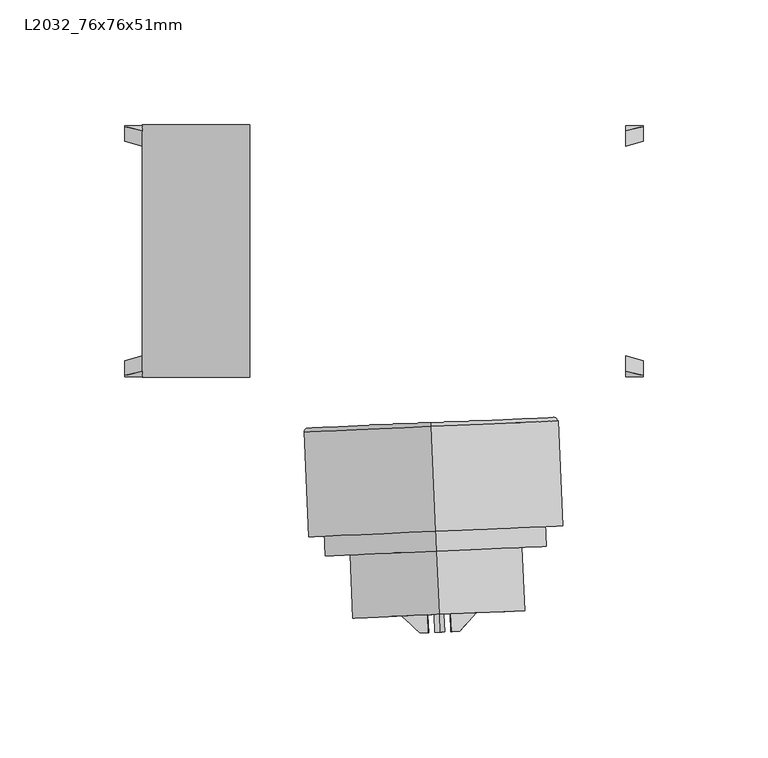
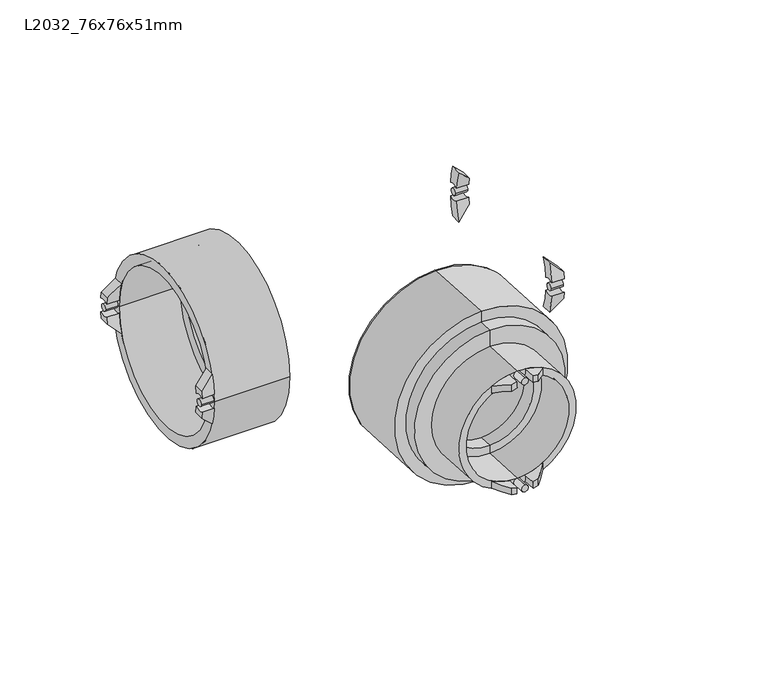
"""IFC4 building model written with IfcOpenShell, lengths in millimetres: pipe fitting geometry, Durapipe_PipeFitting_VulcatheneEnfusion_ReducingSweepTee_L20 : L2032_76x76x51mm."""

from ifc_helpers import new_model, si_unit, point, frame, frame_2d, origin, place, context, project, spatial, polyline, circle_curve, ellipse_curve, trimmed, segment, composite_curve, outline, extrude, source, transform, mapped, element, save
from ifc_brep_helpers import plane_surface, cylinder_surface, revolved_surface, advanced_brep


def l2032_76x76x51mm_12356ed6(model_context):
    return source(origin(), model_context, "Body", "SolidModel", [
        advanced_brep(
        [(2.1979179, -152.9469122, 30.2709231), (1.9269911, -152.9587411, 34.0709231), (-1.2631601, -153.0980261, 33.4711279), (-1.2631601, -153.0980261, 29.5519272), (-8.6261382, -146.3127366, 30.9573901), (1.6172935, -145.8654987, 34.0709231), (1.8882202, -145.8536698, 30.2709231), (-8.6261382, -146.3127366, 26.6713329)],
        [
            (0, 1, circle_curve(frame((6.6692827, -152.7516881, 32.5), z_axis=(-0.043619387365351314, 0.9990482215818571, 0.0), x_axis=(0.0, 0.0, -1.0)), 5.0)),
            (1, 2, circle_curve(frame((6.6692827, -152.7516881, 0.0), z_axis=(0.043619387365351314, -0.9990482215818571, 0.0), x_axis=(0.0, 0.0, -1.0)), 34.4)),
            (2, 3),
            (3, 0, circle_curve(frame((6.6692827, -152.7516881, 0.0), z_axis=(-0.043619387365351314, 0.9990482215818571, 0.0), x_axis=(0.0, 0.0, -1.0)), 30.6)),
            (4, 5, circle_curve(frame((6.3595851, -145.6584458, 0.0), z_axis=(-0.043619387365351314, 0.9990482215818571, 0.0), x_axis=(0.0, 0.0, -1.0)), 34.4)),
            (5, 6, circle_curve(frame((6.3595851, -145.6584458, 32.5), z_axis=(0.043619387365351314, -0.9990482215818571, 0.0), x_axis=(0.0, 0.0, -1.0)), 5.0)),
            (6, 7, circle_curve(frame((6.3595851, -145.6584458, 0.0), z_axis=(0.043619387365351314, -0.9990482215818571, 0.0), x_axis=(0.0, 0.0, -1.0)), 30.6)),
            (7, 4),
            (6, 0),
            (3, 7, ellipse_curve(frame((7.0175829, -160.729074, 0.0), z_axis=(-0.6776702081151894, -0.735365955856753, 0.0), x_axis=(-0.735365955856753, 0.6776702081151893, 0.0)), 43.3977, 30.6)),
            (4, 2, ellipse_curve(frame((7.0175829, -160.729074, 0.0), z_axis=(0.6776702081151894, 0.735365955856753, 0.0), x_axis=(0.735365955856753, -0.6776702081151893, 0.0)), 48.7869569, 34.4)),
            (1, 5),
        ],
        [
            plane_surface(frame((-8.3164406, -153.405979, 30.9573901), z_axis=(0.043619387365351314, -0.9990482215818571, 0.0), x_axis=(0.0, 0.0, -1.0))),
            plane_surface(frame((-8.6261382, -146.3127366, 30.9573901), z_axis=(-0.043619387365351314, 0.9990482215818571, 0.0), x_axis=(0.0, 0.0, 1.0))),
            revolved_surface(polyline([(5.6752673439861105, -129.98499235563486, -30.6), (8.35989853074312, -191.4731556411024, -30.6)]), (6.3595851, -145.6584458, 0.0), (-0.043619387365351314, 0.9990482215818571, 0.0)),
            cylinder_surface(frame((6.3595851, -145.6584458, 0.0), z_axis=(0.043619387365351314, -0.9990482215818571, 0.0), x_axis=(0.0, 0.0, -1.0)), 34.4),
            revolved_surface(polyline([(6.669282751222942, -152.75168819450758, 27.5), (6.359585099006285, -145.6584457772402, 27.5)]), (6.3595851, -145.6584458, 32.5), (0.043619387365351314, -0.9990482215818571, 0.0)),
            plane_surface(frame((-8.6261382, -146.3127366, -34.4), z_axis=(-0.6776702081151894, -0.735365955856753, 0.0), x_axis=(0.0, 0.0, 1.0))),
        ],
        [
            (0, [[1, 2, 3, 4]]),
            (1, [[5, 6, 7, 8]]),
            (2, [[-7, 9, -4, 10]]),
            (3, [[-5, 11, -2, 12]]),
            (4, [[-1, -9, -6, -12]]),
            (5, [[-3, -11, -8, -10]]),
        ],
    ),
        advanced_brep(
        [(11.4115744, -152.5446352, 34.0709231), (11.1406476, -152.5564641, 30.2709231), (14.6017256, -152.4053502, 29.5519272), (14.6017256, -152.4053502, 33.4711279), (11.1018767, -145.4513929, 34.0709231), (21.3453084, -145.004155, 30.9573901), (21.3453084, -145.004155, 26.6713329), (10.8309499, -145.4632218, 30.2709231)],
        [
            (0, 1, circle_curve(frame((6.6692827, -152.7516881, 32.5), z_axis=(-0.043619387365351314, 0.9990482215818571, 0.0), x_axis=(0.0, 0.0, -1.0)), 5.0)),
            (1, 2, circle_curve(frame((6.6692827, -152.7516881, 0.0), z_axis=(-0.043619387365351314, 0.9990482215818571, 0.0), x_axis=(0.0, 0.0, -1.0)), 30.6)),
            (2, 3),
            (3, 0, circle_curve(frame((6.6692827, -152.7516881, 0.0), z_axis=(0.043619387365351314, -0.9990482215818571, 0.0), x_axis=(0.0, 0.0, -1.0)), 34.4)),
            (4, 5, circle_curve(frame((6.3595851, -145.6584458, 0.0), z_axis=(-0.043619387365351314, 0.9990482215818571, 0.0), x_axis=(0.0, 0.0, -1.0)), 34.4)),
            (5, 6),
            (6, 7, circle_curve(frame((6.3595851, -145.6584458, 0.0), z_axis=(0.043619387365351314, -0.9990482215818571, 0.0), x_axis=(0.0, 0.0, -1.0)), 30.6)),
            (7, 4, circle_curve(frame((6.3595851, -145.6584458, 32.5), z_axis=(0.043619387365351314, -0.9990482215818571, 0.0), x_axis=(0.0, 0.0, -1.0)), 5.0)),
            (6, 2, ellipse_curve(frame((7.0175829, -160.729074, 0.0), z_axis=(0.7391828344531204, -0.6735048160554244, 0.0), x_axis=(0.6735048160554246, 0.73918283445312, 0.0)), 43.3977, 30.6)),
            (1, 7),
            (4, 0),
            (3, 5, ellipse_curve(frame((7.0175829, -160.729074, 0.0), z_axis=(-0.7391828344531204, 0.6735048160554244, 0.0), x_axis=(-0.6735048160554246, -0.73918283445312, 0.0)), 48.7869569, 34.4)),
        ],
        [
            plane_surface(frame((-8.3164406, -153.405979, 30.9573901), z_axis=(0.043619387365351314, -0.9990482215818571, 0.0), x_axis=(0.0, 0.0, -1.0))),
            plane_surface(frame((-8.6261382, -146.3127366, 30.9573901), z_axis=(-0.043619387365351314, 0.9990482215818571, 0.0), x_axis=(0.0, 0.0, 1.0))),
            revolved_surface(polyline([(5.675267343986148, -129.9849923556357, -30.6), (8.359898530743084, -191.47315564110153, -30.6)]), (6.3595851, -145.6584458, 0.0), (-0.043619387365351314, 0.9990482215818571, 0.0)),
            cylinder_surface(frame((6.3595851, -145.6584458, 0.0), z_axis=(0.043619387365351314, -0.9990482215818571, 0.0), x_axis=(0.0, 0.0, -1.0)), 34.4),
            revolved_surface(polyline([(6.669282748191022, -152.75168812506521, 27.5), (6.3595851, -145.6584458, 27.5)]), (6.3595851, -145.6584458, 32.5), (0.043619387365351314, -0.9990482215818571, 0.0)),
            plane_surface(frame((14.6017256, -152.4053502, -34.4), z_axis=(0.7391828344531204, -0.6735048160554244, 0.0), x_axis=(0.0, 0.0, 1.0))),
        ],
        [
            (0, [[1, 2, 3, 4]]),
            (1, [[5, 6, 7, 8]]),
            (2, [[-7, 9, -2, 10]]),
            (3, [[-5, 11, -4, 12]]),
            (4, [[-1, -11, -8, -10]]),
            (5, [[-3, -9, -6, -12]]),
        ],
    ),
        advanced_brep(
        [(1.9269911, -152.9587411, -34.0709231), (2.1979179, -152.9469122, -30.2709231), (-1.2631601, -153.0980261, -29.5519272), (-1.2631601, -153.0980261, -33.4711279), (1.6172935, -145.8654987, -34.0709231), (-8.6261382, -146.3127366, -30.9573901), (-8.6261382, -146.3127366, -26.6713329), (1.8882202, -145.8536698, -30.2709231)],
        [
            (0, 1, circle_curve(frame((6.6692827, -152.7516881, -32.5), z_axis=(-0.043619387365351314, 0.9990482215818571, 0.0), x_axis=(0.0, 0.0, -1.0)), 5.0)),
            (1, 2, circle_curve(frame((6.6692827, -152.7516881, 0.0), z_axis=(-0.043619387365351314, 0.9990482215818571, 0.0), x_axis=(0.0, 0.0, -1.0)), 30.6)),
            (2, 3),
            (3, 0, circle_curve(frame((6.6692827, -152.7516881, 0.0), z_axis=(0.043619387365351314, -0.9990482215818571, 0.0), x_axis=(0.0, 0.0, -1.0)), 34.4)),
            (4, 5, circle_curve(frame((6.3595851, -145.6584458, 0.0), z_axis=(-0.043619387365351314, 0.9990482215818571, 0.0), x_axis=(0.0, 0.0, -1.0)), 34.4)),
            (5, 6),
            (6, 7, circle_curve(frame((6.3595851, -145.6584458, 0.0), z_axis=(0.043619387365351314, -0.9990482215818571, 0.0), x_axis=(0.0, 0.0, -1.0)), 30.6)),
            (7, 4, circle_curve(frame((6.3595851, -145.6584458, -32.5), z_axis=(0.043619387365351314, -0.9990482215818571, 0.0), x_axis=(0.0, 0.0, -1.0)), 5.0)),
            (6, 2, ellipse_curve(frame((7.0175829, -160.729074, 0.0), z_axis=(-0.6776702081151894, -0.735365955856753, 0.0), x_axis=(-0.735365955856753, 0.6776702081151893, 0.0)), 43.3977, 30.6)),
            (1, 7),
            (4, 0),
            (3, 5, ellipse_curve(frame((7.0175829, -160.729074, 0.0), z_axis=(0.6776702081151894, 0.735365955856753, 0.0), x_axis=(0.735365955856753, -0.6776702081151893, 0.0)), 48.7869569, 34.4)),
        ],
        [
            plane_surface(frame((-8.3164406, -153.405979, 30.9573901), z_axis=(0.043619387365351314, -0.9990482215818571, 0.0), x_axis=(0.0, 0.0, -1.0))),
            plane_surface(frame((-8.6261382, -146.3127366, 30.9573901), z_axis=(-0.043619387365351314, 0.9990482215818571, 0.0), x_axis=(0.0, 0.0, 1.0))),
            revolved_surface(polyline([(5.6752673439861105, -129.98499235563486, -30.6), (8.35989853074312, -191.4731556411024, -30.6)]), (6.3595851, -145.6584458, 0.0), (-0.043619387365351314, 0.9990482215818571, 0.0)),
            cylinder_surface(frame((6.3595851, -145.6584458, 0.0), z_axis=(0.043619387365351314, -0.9990482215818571, 0.0), x_axis=(0.0, 0.0, -1.0)), 34.4),
            revolved_surface(polyline([(6.669282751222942, -152.75168819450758, -37.5), (6.359585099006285, -145.6584457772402, -37.5)]), (6.3595851, -145.6584458, -32.5), (0.043619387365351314, -0.9990482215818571, 0.0)),
            plane_surface(frame((-8.6261382, -146.3127366, -34.4), z_axis=(-0.6776702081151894, -0.735365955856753, 0.0), x_axis=(0.0, 0.0, 1.0))),
        ],
        [
            (0, [[1, 2, 3, 4]]),
            (1, [[5, 6, 7, 8]]),
            (2, [[-7, 9, -2, 10]]),
            (3, [[-5, 11, -4, 12]]),
            (4, [[-1, -11, -8, -10]]),
            (5, [[-3, -9, -6, -12]]),
        ],
    ),
        advanced_brep(
        [(11.1406476, -152.5564641, -30.2709231), (11.4115744, -152.5446352, -34.0709231), (14.6017256, -152.4053502, -33.4711279), (14.6017256, -152.4053502, -29.5519272), (21.3453084, -145.004155, -30.9573901), (11.1018767, -145.4513929, -34.0709231), (10.8309499, -145.4632218, -30.2709231), (21.3453084, -145.004155, -26.6713329)],
        [
            (0, 1, circle_curve(frame((6.6692827, -152.7516881, -32.5), z_axis=(-0.043619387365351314, 0.9990482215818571, 0.0), x_axis=(0.0, 0.0, -1.0)), 5.0)),
            (1, 2, circle_curve(frame((6.6692827, -152.7516881, 0.0), z_axis=(0.043619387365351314, -0.9990482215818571, 0.0), x_axis=(0.0, 0.0, -1.0)), 34.4)),
            (2, 3),
            (3, 0, circle_curve(frame((6.6692827, -152.7516881, 0.0), z_axis=(-0.043619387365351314, 0.9990482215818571, 0.0), x_axis=(0.0, 0.0, -1.0)), 30.6)),
            (4, 5, circle_curve(frame((6.3595851, -145.6584458, 0.0), z_axis=(-0.043619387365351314, 0.9990482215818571, 0.0), x_axis=(0.0, 0.0, -1.0)), 34.4)),
            (5, 6, circle_curve(frame((6.3595851, -145.6584458, -32.5), z_axis=(0.043619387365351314, -0.9990482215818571, 0.0), x_axis=(0.0, 0.0, -1.0)), 5.0)),
            (6, 7, circle_curve(frame((6.3595851, -145.6584458, 0.0), z_axis=(0.043619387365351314, -0.9990482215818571, 0.0), x_axis=(0.0, 0.0, -1.0)), 30.6)),
            (7, 4),
            (6, 0),
            (3, 7, ellipse_curve(frame((7.0175829, -160.729074, 0.0), z_axis=(0.7391828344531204, -0.6735048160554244, 0.0), x_axis=(0.6735048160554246, 0.73918283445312, 0.0)), 43.3977, 30.6)),
            (4, 2, ellipse_curve(frame((7.0175829, -160.729074, 0.0), z_axis=(-0.7391828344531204, 0.6735048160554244, 0.0), x_axis=(-0.6735048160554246, -0.73918283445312, 0.0)), 48.7869569, 34.4)),
            (1, 5),
        ],
        [
            plane_surface(frame((-8.3164406, -153.405979, 30.9573901), z_axis=(0.043619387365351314, -0.9990482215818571, 0.0), x_axis=(0.0, 0.0, -1.0))),
            plane_surface(frame((-8.6261382, -146.3127366, 30.9573901), z_axis=(-0.043619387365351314, 0.9990482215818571, 0.0), x_axis=(0.0, 0.0, 1.0))),
            revolved_surface(polyline([(5.675267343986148, -129.9849923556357, -30.6), (8.359898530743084, -191.47315564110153, -30.6)]), (6.3595851, -145.6584458, 0.0), (-0.043619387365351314, 0.9990482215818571, 0.0)),
            cylinder_surface(frame((6.3595851, -145.6584458, 0.0), z_axis=(0.043619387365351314, -0.9990482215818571, 0.0), x_axis=(0.0, 0.0, -1.0)), 34.4),
            revolved_surface(polyline([(6.669282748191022, -152.75168812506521, -37.5), (6.3595851, -145.6584458, -37.5)]), (6.3595851, -145.6584458, -32.5), (0.043619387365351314, -0.9990482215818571, 0.0)),
            plane_surface(frame((14.6017256, -152.4053502, -34.4), z_axis=(0.7391828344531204, -0.6735048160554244, 0.0), x_axis=(0.0, 0.0, 1.0))),
        ],
        [
            (0, [[1, 2, 3, 4]]),
            (1, [[5, 6, 7, 8]]),
            (2, [[-7, 9, -4, 10]]),
            (3, [[-5, 11, -2, 12]]),
            (4, [[-1, -9, -6, -12]]),
            (5, [[-3, -11, -8, -10]]),
        ],
    ),
        extrude(outline(composite_curve([segment(trimmed(circle_curve(frame_2d((0.0, -2.0)), 2.0), [point((0.0, -4.0))], [point((0.0, 0.0))], False, "CARTESIAN"), True, "CONTINUOUS"), segment(trimmed(circle_curve(frame_2d((0.0, -2.0)), 2.0), [point((0.0, 0.0))], [point((0.0, -4.0))], False, "CARTESIAN"), True, "CONTINUOUS")], self_intersect=False)), frame((6.6692827, -152.7516881, 30.5), z_axis=(-0.043619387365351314, 0.9990482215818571, 0.0), x_axis=(0.9990482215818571, 0.043619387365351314, 0.0)), (0.0, 0.0, 1.0), 7.1),
        extrude(outline(composite_curve([segment(trimmed(circle_curve(frame_2d((0.0, 63.0)), 2.0), [point((0.0, 61.0))], [point((0.0, 65.0))], False, "CARTESIAN"), True, "CONTINUOUS"), segment(trimmed(circle_curve(frame_2d((0.0, 63.0)), 2.0), [point((0.0, 65.0))], [point((0.0, 61.0))], False, "CARTESIAN"), True, "CONTINUOUS")], self_intersect=False)), frame((6.6692827, -152.7516881, 30.5), z_axis=(-0.043619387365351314, 0.9990482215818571, 0.0), x_axis=(0.9990482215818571, 0.043619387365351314, 0.0)), (0.0, 0.0, 1.0), 7.1),
        advanced_brep(
        [(3.0046981, -68.8189003, 49.554), (3.0046981, -68.8189003, -49.554), (3.0701272, -70.3174726, -51.054), (3.0701272, -70.3174726, 51.054), (3.0046981, -68.8189003, 0.0), (3.3822748, -77.4668296, 44.7251256), (3.3822748, -77.4668296, -44.7251256), (3.3822748, -77.4668296, 0.0), (4.9056819, -112.3585888, 44.7251256), (4.9056819, -112.3585888, -44.7251256), (4.9056819, -112.3585888, 51.054), (4.9056819, -112.3585888, -51.054)],
        [
            (0, 1, circle_curve(frame((3.0046981, -68.8189003, 0.0), z_axis=(0.043619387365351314, -0.9990482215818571, 0.0), x_axis=(0.0, 0.0, -1.0)), 49.554)),
            (1, 2, circle_curve(frame((3.0701272, -70.3174726, -49.554), z_axis=(-0.9990482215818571, -0.043619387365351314, 0.0), x_axis=(0.0, 0.0, 1.0)), 1.5)),
            (2, 3, circle_curve(frame((3.0701272, -70.3174726, 0.0), z_axis=(-0.043619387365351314, 0.9990482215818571, 0.0), x_axis=(0.0, 0.0, -1.0)), 51.054)),
            (3, 0, circle_curve(frame((3.0701272, -70.3174726, 49.554), z_axis=(-0.9990482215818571, -0.043619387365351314, 0.0), x_axis=(0.0, 0.0, -1.0)), 1.5)),
            (1, 0, circle_curve(frame((3.0046981, -68.8189003, 0.0), z_axis=(0.043619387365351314, -0.9990482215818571, 0.0), x_axis=(0.0, 0.0, -1.0)), 49.554)),
            (3, 2, circle_curve(frame((3.0701272, -70.3174726, 0.0), z_axis=(-0.043619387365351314, 0.9990482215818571, 0.0), x_axis=(0.0, 0.0, -1.0)), 51.054)),
            (4, 1),
            (0, 4),
            (5, 6, circle_curve(frame((3.3822748, -77.4668296, 0.0), z_axis=(0.043619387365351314, -0.9990482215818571, 0.0), x_axis=(0.0, 0.0, -1.0)), 44.7251256)),
            (6, 7),
            (7, 5),
            (6, 5, circle_curve(frame((3.3822748, -77.4668296, 0.0), z_axis=(0.043619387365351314, -0.9990482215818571, 0.0), x_axis=(0.0, 0.0, -1.0)), 44.7251256)),
            (8, 9, circle_curve(frame((4.9056819, -112.3585888, 0.0), z_axis=(0.043619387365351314, -0.9990482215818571, 0.0), x_axis=(0.0, 0.0, -1.0)), 44.7251256)),
            (9, 6),
            (5, 8),
            (9, 8, circle_curve(frame((4.9056819, -112.3585888, 0.0), z_axis=(0.043619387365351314, -0.9990482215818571, 0.0), x_axis=(0.0, 0.0, -1.0)), 44.7251256)),
            (10, 11, circle_curve(frame((4.9056819, -112.3585888, 0.0), z_axis=(0.043619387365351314, -0.9990482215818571, 0.0), x_axis=(0.0, 0.0, -1.0)), 51.054)),
            (11, 9),
            (8, 10),
            (11, 10, circle_curve(frame((4.9056819, -112.3585888, 0.0), z_axis=(0.043619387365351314, -0.9990482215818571, 0.0), x_axis=(0.0, 0.0, -1.0)), 51.054)),
            (2, 11),
            (10, 3),
        ],
        [
            revolved_surface(trimmed(ellipse_curve(frame((3.0701272, -70.3174726, -49.554), z_axis=(0.9990482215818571, 0.043619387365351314, 0.0), x_axis=(0.0, 0.0, 1.0)), 1.5, 1.5), [point((3.0701272, -70.3174726, -51.054))], [point((3.0046981, -68.8189003, -49.554))], True, "CARTESIAN"), (4.4694881, -102.3681065, 0.0), (-0.043619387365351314, 0.9990482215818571, 0.0)),
            plane_surface(frame((3.0046981, -68.8189003, 0.0), z_axis=(-0.043619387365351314, 0.9990482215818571, 0.0), x_axis=(0.0, 0.0, -1.0))),
            plane_surface(frame((3.3822748, -77.4668296, 0.0), z_axis=(0.043619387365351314, -0.9990482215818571, 0.0), x_axis=(0.0, 0.0, -1.0))),
            revolved_surface(polyline([(3.382274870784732, -77.46682959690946, -44.7251256), (4.905681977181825, -112.35858879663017, -44.7251256)]), (4.4694881, -102.3681065, 0.0), (-0.043619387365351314, 0.9990482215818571, 0.0)),
            plane_surface(frame((4.9056819, -112.3585888, 0.0), z_axis=(0.043619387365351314, -0.9990482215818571, 0.0), x_axis=(0.0, 0.0, -1.0))),
            cylinder_surface(frame((4.4694881, -102.3681065, 0.0), z_axis=(-0.043619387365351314, 0.9990482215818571, 0.0), x_axis=(0.0, 0.0, -1.0)), 51.054),
        ],
        [
            (0, [[1, 2, 3, 4]]),
            (0, [[5, -4, 6, -2]]),
            (1, [[7, -1, 8]]),
            (1, [[-8, -5, -7]]),
            (2, [[9, 10, 11]]),
            (2, [[12, -11, -10]]),
            (3, [[13, 14, -9, 15]]),
            (3, [[16, -15, -12, -14]]),
            (4, [[17, 18, -13, 19]]),
            (4, [[20, -19, -16, -18]]),
            (5, [[-3, 21, -17, 22]]),
            (5, [[-6, -22, -20, -21]]),
        ],
    ),
        advanced_brep(
        [(5.2519108, -120.288534, 44.45), (5.2519108, -120.288534, -44.45), (5.2519108, -120.288534, -34.5600076), (5.2519108, -120.288534, 34.5600076), (3.3822748, -77.4668296, 44.45), (3.3822748, -77.4668296, -44.45), (3.3822748, -77.4668296, 38.13357), (3.3822748, -77.4668296, -38.13357), (4.9056819, -112.3585888, 38.13357), (4.9056819, -112.3585888, -38.13357), (4.9056819, -112.3585888, 25.5553266), (4.9056819, -112.3585888, -25.5553266), (5.2519108, -120.288534, 25.5553266), (5.2519108, -120.288534, -25.5553266), (5.2519108, -120.288534, 30.4314669), (5.2519108, -120.288534, -30.4314669), (6.3595851, -145.6584458, 30.4314669), (6.3595851, -145.6584458, -30.4314669), (6.3595851, -145.6584458, 34.5600076), (6.3595851, -145.6584458, -34.5600076)],
        [
            (0, 1, circle_curve(frame((5.2519108, -120.288534, 0.0), z_axis=(0.043619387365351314, -0.9990482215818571, 0.0), x_axis=(0.0, 0.0, -1.0)), 44.45)),
            (1, 2),
            (2, 3, circle_curve(frame((5.2519108, -120.288534, 0.0), z_axis=(-0.043619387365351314, 0.9990482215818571, 0.0), x_axis=(0.0, 0.0, -1.0)), 34.5600076)),
            (3, 0),
            (1, 0, circle_curve(frame((5.2519108, -120.288534, 0.0), z_axis=(0.043619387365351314, -0.9990482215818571, 0.0), x_axis=(0.0, 0.0, -1.0)), 44.45)),
            (3, 2, circle_curve(frame((5.2519108, -120.288534, 0.0), z_axis=(-0.043619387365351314, 0.9990482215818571, 0.0), x_axis=(0.0, 0.0, -1.0)), 34.5600076)),
            (4, 5, circle_curve(frame((3.3822748, -77.4668296, 0.0), z_axis=(0.043619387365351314, -0.9990482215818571, 0.0), x_axis=(0.0, 0.0, -1.0)), 44.45)),
            (5, 1),
            (0, 4),
            (5, 4, circle_curve(frame((3.3822748, -77.4668296, 0.0), z_axis=(0.043619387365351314, -0.9990482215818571, 0.0), x_axis=(0.0, 0.0, -1.0)), 44.45)),
            (6, 7, circle_curve(frame((3.3822748, -77.4668296, 0.0), z_axis=(0.043619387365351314, -0.9990482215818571, 0.0), x_axis=(0.0, 0.0, -1.0)), 38.13357)),
            (7, 5),
            (4, 6),
            (7, 6, circle_curve(frame((3.3822748, -77.4668296, 0.0), z_axis=(0.043619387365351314, -0.9990482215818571, 0.0), x_axis=(0.0, 0.0, -1.0)), 38.13357)),
            (8, 9, circle_curve(frame((4.9056819, -112.3585888, 0.0), z_axis=(0.043619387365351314, -0.9990482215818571, 0.0), x_axis=(0.0, 0.0, -1.0)), 38.13357)),
            (9, 7),
            (6, 8),
            (9, 8, circle_curve(frame((4.9056819, -112.3585888, 0.0), z_axis=(0.043619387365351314, -0.9990482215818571, 0.0), x_axis=(0.0, 0.0, -1.0)), 38.13357)),
            (10, 11, circle_curve(frame((4.9056819, -112.3585888, 0.0), z_axis=(0.043619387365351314, -0.9990482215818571, 0.0), x_axis=(0.0, 0.0, -1.0)), 25.5553266)),
            (11, 9),
            (8, 10),
            (11, 10, circle_curve(frame((4.9056819, -112.3585888, 0.0), z_axis=(0.043619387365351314, -0.9990482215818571, 0.0), x_axis=(0.0, 0.0, -1.0)), 25.5553266)),
            (12, 13, circle_curve(frame((5.2519108, -120.288534, 0.0), z_axis=(0.043619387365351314, -0.9990482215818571, 0.0), x_axis=(0.0, 0.0, -1.0)), 25.5553266)),
            (13, 11),
            (10, 12),
            (13, 12, circle_curve(frame((5.2519108, -120.288534, 0.0), z_axis=(0.043619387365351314, -0.9990482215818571, 0.0), x_axis=(0.0, 0.0, -1.0)), 25.5553266)),
            (14, 15, circle_curve(frame((5.2519108, -120.288534, 0.0), z_axis=(0.043619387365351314, -0.9990482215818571, 0.0), x_axis=(0.0, 0.0, -1.0)), 30.4314669)),
            (15, 13),
            (12, 14),
            (15, 14, circle_curve(frame((5.2519108, -120.288534, 0.0), z_axis=(0.043619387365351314, -0.9990482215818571, 0.0), x_axis=(0.0, 0.0, -1.0)), 30.4314669)),
            (16, 17, circle_curve(frame((6.3595851, -145.6584458, 0.0), z_axis=(0.043619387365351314, -0.9990482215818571, 0.0), x_axis=(0.0, 0.0, -1.0)), 30.4314669)),
            (17, 15),
            (14, 16),
            (17, 16, circle_curve(frame((6.3595851, -145.6584458, 0.0), z_axis=(0.043619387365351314, -0.9990482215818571, 0.0), x_axis=(0.0, 0.0, -1.0)), 30.4314669)),
            (18, 19, circle_curve(frame((6.3595851, -145.6584458, 0.0), z_axis=(0.043619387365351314, -0.9990482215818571, 0.0), x_axis=(0.0, 0.0, -1.0)), 34.5600076)),
            (19, 17),
            (16, 18),
            (19, 18, circle_curve(frame((6.3595851, -145.6584458, 0.0), z_axis=(0.043619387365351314, -0.9990482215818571, 0.0), x_axis=(0.0, 0.0, -1.0)), 34.5600076)),
            (2, 19),
            (18, 3),
        ],
        [
            plane_surface(frame((5.2519108, -120.288534, 0.0), z_axis=(0.043619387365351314, -0.9990482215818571, 0.0), x_axis=(0.0, 0.0, -1.0))),
            cylinder_surface(frame((5.9062016, -135.2742573, 0.0), z_axis=(-0.043619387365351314, 0.9990482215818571, 0.0), x_axis=(0.0, 0.0, -1.0)), 44.45),
            plane_surface(frame((3.3822748, -77.4668296, 0.0), z_axis=(-0.043619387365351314, 0.9990482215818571, 0.0), x_axis=(0.0, 0.0, -1.0))),
            revolved_surface(polyline([(3.3822747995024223, -77.46682960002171, -38.13357), (4.905681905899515, -112.35858879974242, -38.13357)]), (5.9062016, -135.2742573, 0.0), (-0.043619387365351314, 0.9990482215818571, 0.0)),
            plane_surface(frame((4.9056819, -112.3585888, 0.0), z_axis=(-0.043619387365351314, 0.9990482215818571, 0.0), x_axis=(0.0, 0.0, -1.0))),
            revolved_surface(polyline([(4.905681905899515, -112.35858879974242, -25.5553266), (5.251910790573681, -120.28853400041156, -25.5553266)]), (5.9062016, -135.2742573, 0.0), (-0.043619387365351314, 0.9990482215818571, 0.0)),
            revolved_surface(polyline([(5.251910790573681, -120.28853400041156, -30.4314669), (6.359585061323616, -145.65844580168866, -30.4314669)]), (5.9062016, -135.2742573, 0.0), (-0.043619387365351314, 0.9990482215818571, 0.0)),
            plane_surface(frame((6.3595851, -145.6584458, 0.0), z_axis=(0.043619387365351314, -0.9990482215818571, 0.0), x_axis=(0.0, 0.0, -1.0))),
            cylinder_surface(frame((5.9062016, -135.2742573, 0.0), z_axis=(-0.043619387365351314, 0.9990482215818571, 0.0), x_axis=(0.0, 0.0, -1.0)), 34.5600076),
        ],
        [
            (0, [[1, 2, 3, 4]]),
            (0, [[5, -4, 6, -2]]),
            (1, [[7, 8, -1, 9]]),
            (1, [[10, -9, -5, -8]]),
            (2, [[11, 12, -7, 13]]),
            (2, [[14, -13, -10, -12]]),
            (3, [[15, 16, -11, 17]]),
            (3, [[18, -17, -14, -16]]),
            (4, [[19, 20, -15, 21]]),
            (4, [[22, -21, -18, -20]]),
            (5, [[23, 24, -19, 25]]),
            (5, [[26, -25, -22, -24]]),
            (0, [[27, 28, -23, 29]]),
            (0, [[30, -29, -26, -28]]),
            (6, [[31, 32, -27, 33]]),
            (6, [[34, -33, -30, -32]]),
            (7, [[35, 36, -31, 37]]),
            (7, [[38, -37, -34, -36]]),
            (8, [[-3, 39, -35, 40]]),
            (8, [[-6, -40, -38, -39]]),
        ],
    ),
        advanced_brep(
        [(-119.6406311, -44.4771742, 3.9247261), (-119.6406311, -50.3271742, 4.1743906), (-119.6406311, -49.8718999, 7.94), (-119.6406311, -43.9383534, 7.94), (-112.5406311, -48.2208461, 15.0), (-112.5406311, -50.3271742, 4.1743906), (-112.5406311, -44.4771742, 3.9247261), (-112.5406311, -42.0549938, 15.0)],
        [
            (0, 1, circle_curve(frame((-119.6406311, -47.575, 0.0), z_axis=(1.0, 0.0, 0.0), x_axis=(0.0, 1.0, 0.0)), 5.0)),
            (1, 2, circle_curve(frame((-119.6406311, 0.0, 0.0), z_axis=(-1.0, 0.0, 0.0), x_axis=(0.0, 1.0, 0.0)), 50.5)),
            (2, 3),
            (3, 0, circle_curve(frame((-119.6406311, 0.0, 0.0), z_axis=(1.0, 0.0, 0.0), x_axis=(0.0, 1.0, 0.0)), 44.65)),
            (4, 5, circle_curve(frame((-112.5406311, 0.0, 0.0), z_axis=(1.0, 0.0, 0.0), x_axis=(0.0, 1.0, 0.0)), 50.5)),
            (5, 6, circle_curve(frame((-112.5406311, -47.575, 0.0), z_axis=(-1.0, 0.0, 0.0), x_axis=(0.0, 1.0, 0.0)), 5.0)),
            (6, 7, circle_curve(frame((-112.5406311, 0.0, 0.0), z_axis=(-1.0, 0.0, 0.0), x_axis=(0.0, 1.0, 0.0)), 44.65)),
            (7, 4),
            (6, 0),
            (3, 7, ellipse_curve(frame((-127.625617, 0.0, 0.0), z_axis=(-0.705106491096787, 0.0, 0.7091014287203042), x_axis=(0.7091014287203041, 0.0, 0.705106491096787)), 63.3237682, 44.65)),
            (4, 2, ellipse_curve(frame((-127.625617, 0.0, 0.0), z_axis=(0.705106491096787, 0.0, -0.7091014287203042), x_axis=(-0.7091014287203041, 0.0, -0.705106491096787)), 71.6203873, 50.5)),
            (1, 5),
        ],
        [
            plane_surface(frame((-119.6406311, -48.2208461, 15.0), z_axis=(-1.0, 0.0, 0.0), x_axis=(0.0, 1.0, 0.0))),
            plane_surface(frame((-112.5406311, -48.2208461, 15.0), z_axis=(1.0, 0.0, 0.0), x_axis=(0.0, -1.0, 0.0))),
            revolved_surface(polyline([(-82.72264249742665, 44.65, 0.0), (-172.52859150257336, 44.65, 0.0)]), (-112.5406311, 0.0, 0.0), (1.0, 0.0, 0.0)),
            cylinder_surface(frame((-112.5406311, 0.0, 0.0), z_axis=(-1.0, 0.0, 0.0), x_axis=(0.0, 1.0, 0.0)), 50.5),
            revolved_surface(polyline([(-119.6406311, -42.575, 0.0), (-112.5406311, -42.575, 0.0)]), (-112.5406311, -47.575, 0.0), (-1.0, 0.0, 0.0)),
            plane_surface(frame((-112.5406311, 50.5, 15.0), z_axis=(-0.705106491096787, 0.0, 0.7091014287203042), x_axis=(0.0, -1.0, 0.0))),
        ],
        [
            (0, [[1, 2, 3, 4]]),
            (1, [[5, 6, 7, 8]]),
            (2, [[-7, 9, -4, 10]]),
            (3, [[-5, 11, -2, 12]]),
            (4, [[-1, -9, -6, -12]]),
            (5, [[-3, -11, -8, -10]]),
        ],
    ),
        advanced_brep(
        [(-119.6406311, -50.3271742, -4.1743906), (-119.6406311, -44.4771742, -3.9247261), (-119.6406311, -43.9383534, -7.94), (-119.6406311, -49.8718999, -7.94), (-112.5406311, -50.3271742, -4.1743906), (-112.5406311, -48.2208461, -15.0), (-112.5406311, -42.0549938, -15.0), (-112.5406311, -44.4771742, -3.9247261)],
        [
            (0, 1, circle_curve(frame((-119.6406311, -47.575, 0.0), z_axis=(1.0, 0.0, 0.0), x_axis=(0.0, 1.0, 0.0)), 5.0)),
            (1, 2, circle_curve(frame((-119.6406311, 0.0, 0.0), z_axis=(1.0, 0.0, 0.0), x_axis=(0.0, 1.0, 0.0)), 44.65)),
            (2, 3),
            (3, 0, circle_curve(frame((-119.6406311, 0.0, 0.0), z_axis=(-1.0, 0.0, 0.0), x_axis=(0.0, 1.0, 0.0)), 50.5)),
            (4, 5, circle_curve(frame((-112.5406311, 0.0, 0.0), z_axis=(1.0, 0.0, 0.0), x_axis=(0.0, 1.0, 0.0)), 50.5)),
            (5, 6),
            (6, 7, circle_curve(frame((-112.5406311, 0.0, 0.0), z_axis=(-1.0, 0.0, 0.0), x_axis=(0.0, 1.0, 0.0)), 44.65)),
            (7, 4, circle_curve(frame((-112.5406311, -47.575, 0.0), z_axis=(-1.0, 0.0, 0.0), x_axis=(0.0, 1.0, 0.0)), 5.0)),
            (6, 2, ellipse_curve(frame((-127.625617, 0.0, 0.0), z_axis=(-0.7051064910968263, 0.0, -0.7091014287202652), x_axis=(0.7091014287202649, 0.0, -0.7051064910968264)), 63.3237682, 44.65)),
            (1, 7),
            (4, 0),
            (3, 5, ellipse_curve(frame((-127.625617, 0.0, 0.0), z_axis=(0.7051064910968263, 0.0, 0.7091014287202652), x_axis=(-0.7091014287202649, 0.0, 0.7051064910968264)), 71.6203873, 50.5)),
        ],
        [
            plane_surface(frame((-119.6406311, -48.2208461, 15.0), z_axis=(-1.0, 0.0, 0.0), x_axis=(0.0, 1.0, 0.0))),
            plane_surface(frame((-112.5406311, -48.2208461, 15.0), z_axis=(1.0, 0.0, 0.0), x_axis=(0.0, -1.0, 0.0))),
            revolved_surface(polyline([(-82.72264249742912, 44.65, 0.0), (-172.5285915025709, 44.65, 0.0)]), (-112.5406311, 0.0, 0.0), (1.0, 0.0, 0.0)),
            cylinder_surface(frame((-112.5406311, 0.0, 0.0), z_axis=(-1.0, 0.0, 0.0), x_axis=(0.0, 1.0, 0.0)), 50.5),
            revolved_surface(polyline([(-119.6406311, -42.575, 0.0), (-112.5406311, -42.575, 0.0)]), (-112.5406311, -47.575, 0.0), (-1.0, 0.0, 0.0)),
            plane_surface(frame((-119.6406311, 50.5, -7.94), z_axis=(-0.7051064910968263, 0.0, -0.7091014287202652), x_axis=(0.0, -1.0, 0.0))),
        ],
        [
            (0, [[1, 2, 3, 4]]),
            (1, [[5, 6, 7, 8]]),
            (2, [[-7, 9, -2, 10]]),
            (3, [[-5, 11, -4, 12]]),
            (4, [[-1, -11, -8, -10]]),
            (5, [[-3, -9, -6, -12]]),
        ],
    ),
        advanced_brep(
        [(-119.6406311, 50.3271742, 4.1743906), (-119.6406311, 44.4771742, 3.9247261), (-119.6406311, 43.9383534, 7.94), (-119.6406311, 49.8718999, 7.94), (-112.5406311, 50.3271742, 4.1743906), (-112.5406311, 48.2208461, 15.0), (-112.5406311, 42.0549938, 15.0), (-112.5406311, 44.4771742, 3.9247261)],
        [
            (0, 1, circle_curve(frame((-119.6406311, 47.575, 0.0), z_axis=(1.0, 0.0, 0.0), x_axis=(0.0, 1.0, 0.0)), 5.0)),
            (1, 2, circle_curve(frame((-119.6406311, 0.0, 0.0), z_axis=(1.0, 0.0, 0.0), x_axis=(0.0, 1.0, 0.0)), 44.65)),
            (2, 3),
            (3, 0, circle_curve(frame((-119.6406311, 0.0, 0.0), z_axis=(-1.0, 0.0, 0.0), x_axis=(0.0, 1.0, 0.0)), 50.5)),
            (4, 5, circle_curve(frame((-112.5406311, 0.0, 0.0), z_axis=(1.0, 0.0, 0.0), x_axis=(0.0, 1.0, 0.0)), 50.5)),
            (5, 6),
            (6, 7, circle_curve(frame((-112.5406311, 0.0, 0.0), z_axis=(-1.0, 0.0, 0.0), x_axis=(0.0, 1.0, 0.0)), 44.65)),
            (7, 4, circle_curve(frame((-112.5406311, 47.575, 0.0), z_axis=(-1.0, 0.0, 0.0), x_axis=(0.0, 1.0, 0.0)), 5.0)),
            (6, 2, ellipse_curve(frame((-127.625617, 0.0, 0.0), z_axis=(-0.705106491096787, 0.0, 0.7091014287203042), x_axis=(0.7091014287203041, 0.0, 0.705106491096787)), 63.3237682, 44.65)),
            (1, 7),
            (4, 0),
            (3, 5, ellipse_curve(frame((-127.625617, 0.0, 0.0), z_axis=(0.705106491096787, 0.0, -0.7091014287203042), x_axis=(-0.7091014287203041, 0.0, -0.705106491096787)), 71.6203873, 50.5)),
        ],
        [
            plane_surface(frame((-119.6406311, -48.2208461, 15.0), z_axis=(-1.0, 0.0, 0.0), x_axis=(0.0, 1.0, 0.0))),
            plane_surface(frame((-112.5406311, -48.2208461, 15.0), z_axis=(1.0, 0.0, 0.0), x_axis=(0.0, -1.0, 0.0))),
            revolved_surface(polyline([(-82.72264249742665, 44.65, 0.0), (-172.52859150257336, 44.65, 0.0)]), (-112.5406311, 0.0, 0.0), (1.0, 0.0, 0.0)),
            cylinder_surface(frame((-112.5406311, 0.0, 0.0), z_axis=(-1.0, 0.0, 0.0), x_axis=(0.0, 1.0, 0.0)), 50.5),
            revolved_surface(polyline([(-119.6406311, 52.575, 0.0), (-112.5406311, 52.575, 0.0)]), (-112.5406311, 47.575, 0.0), (-1.0, 0.0, 0.0)),
            plane_surface(frame((-112.5406311, 50.5, 15.0), z_axis=(-0.705106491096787, 0.0, 0.7091014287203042), x_axis=(0.0, -1.0, 0.0))),
        ],
        [
            (0, [[1, 2, 3, 4]]),
            (1, [[5, 6, 7, 8]]),
            (2, [[-7, 9, -2, 10]]),
            (3, [[-5, 11, -4, 12]]),
            (4, [[-1, -11, -8, -10]]),
            (5, [[-3, -9, -6, -12]]),
        ],
    ),
        advanced_brep(
        [(-119.6406311, 44.4771742, -3.9247261), (-119.6406311, 50.3271742, -4.1743906), (-119.6406311, 49.8718999, -7.94), (-119.6406311, 43.9383534, -7.94), (-112.5406311, 48.2208461, -15.0), (-112.5406311, 50.3271742, -4.1743906), (-112.5406311, 44.4771742, -3.9247261), (-112.5406311, 42.0549938, -15.0)],
        [
            (0, 1, circle_curve(frame((-119.6406311, 47.575, 0.0), z_axis=(1.0, 0.0, 0.0), x_axis=(0.0, 1.0, 0.0)), 5.0)),
            (1, 2, circle_curve(frame((-119.6406311, 0.0, 0.0), z_axis=(-1.0, 0.0, 0.0), x_axis=(0.0, 1.0, 0.0)), 50.5)),
            (2, 3),
            (3, 0, circle_curve(frame((-119.6406311, 0.0, 0.0), z_axis=(1.0, 0.0, 0.0), x_axis=(0.0, 1.0, 0.0)), 44.65)),
            (4, 5, circle_curve(frame((-112.5406311, 0.0, 0.0), z_axis=(1.0, 0.0, 0.0), x_axis=(0.0, 1.0, 0.0)), 50.5)),
            (5, 6, circle_curve(frame((-112.5406311, 47.575, 0.0), z_axis=(-1.0, 0.0, 0.0), x_axis=(0.0, 1.0, 0.0)), 5.0)),
            (6, 7, circle_curve(frame((-112.5406311, 0.0, 0.0), z_axis=(-1.0, 0.0, 0.0), x_axis=(0.0, 1.0, 0.0)), 44.65)),
            (7, 4),
            (6, 0),
            (3, 7, ellipse_curve(frame((-127.625617, 0.0, 0.0), z_axis=(-0.7051064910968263, 0.0, -0.7091014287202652), x_axis=(0.7091014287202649, 0.0, -0.7051064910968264)), 63.3237682, 44.65)),
            (4, 2, ellipse_curve(frame((-127.625617, 0.0, 0.0), z_axis=(0.7051064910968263, 0.0, 0.7091014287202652), x_axis=(-0.7091014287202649, 0.0, 0.7051064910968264)), 71.6203873, 50.5)),
            (1, 5),
        ],
        [
            plane_surface(frame((-119.6406311, -48.2208461, 15.0), z_axis=(-1.0, 0.0, 0.0), x_axis=(0.0, 1.0, 0.0))),
            plane_surface(frame((-112.5406311, -48.2208461, 15.0), z_axis=(1.0, 0.0, 0.0), x_axis=(0.0, -1.0, 0.0))),
            revolved_surface(polyline([(-82.72264249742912, 44.65, 0.0), (-172.5285915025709, 44.65, 0.0)]), (-112.5406311, 0.0, 0.0), (1.0, 0.0, 0.0)),
            cylinder_surface(frame((-112.5406311, 0.0, 0.0), z_axis=(-1.0, 0.0, 0.0), x_axis=(0.0, 1.0, 0.0)), 50.5),
            revolved_surface(polyline([(-119.6406311, 52.575, 0.0), (-112.5406311, 52.575, 0.0)]), (-112.5406311, 47.575, 0.0), (-1.0, 0.0, 0.0)),
            plane_surface(frame((-119.6406311, 50.5, -7.94), z_axis=(-0.7051064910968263, 0.0, -0.7091014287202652), x_axis=(0.0, -1.0, 0.0))),
        ],
        [
            (0, [[1, 2, 3, 4]]),
            (1, [[5, 6, 7, 8]]),
            (2, [[-7, 9, -4, 10]]),
            (3, [[-5, 11, -2, 12]]),
            (4, [[-1, -9, -6, -12]]),
            (5, [[-3, -11, -8, -10]]),
        ],
    ),
        extrude(outline(composite_curve([segment(trimmed(circle_curve(frame_2d((-47.575, 0.0)), 2.0), [point((-49.575, 0.0))], [point((-45.575, 0.0))], False, "CARTESIAN"), True, "CONTINUOUS"), segment(trimmed(circle_curve(frame_2d((-47.575, 0.0)), 2.0), [point((-45.575, 0.0))], [point((-49.575, 0.0))], False, "CARTESIAN"), True, "CONTINUOUS")], self_intersect=False)), frame((-119.6406311, 0.0, 0.0), z_axis=(1.0, 0.0, 0.0), x_axis=(0.0, 1.0, 0.0)), (0.0, 0.0, 1.0), 7.1),
        extrude(outline(composite_curve([segment(trimmed(circle_curve(frame_2d((47.575, 0.0)), 2.0), [point((45.575, 0.0))], [point((49.575, 0.0))], False, "CARTESIAN"), True, "CONTINUOUS"), segment(trimmed(circle_curve(frame_2d((47.575, 0.0)), 2.0), [point((49.575, 0.0))], [point((45.575, 0.0))], False, "CARTESIAN"), True, "CONTINUOUS")], self_intersect=False)), frame((-119.6406311, 0.0, 0.0), z_axis=(1.0, 0.0, 0.0), x_axis=(0.0, 1.0, 0.0)), (0.0, 0.0, 1.0), 7.1),
        advanced_brep(
        [(-77.5406311, -38.0, 0.0), (-77.5406311, 38.0, 0.0), (-77.5406311, 44.5, 0.0), (-77.5406311, -44.5, 0.0), (-69.5406311, -38.0, 0.0), (-69.5406311, 38.0, 0.0), (-69.5406311, -50.65, 0.0), (-69.5406311, 50.65, 0.0), (-112.5406311, -50.65, 0.0), (-112.5406311, 50.65, 0.0), (-112.5406311, -44.5, 0.0), (-112.5406311, 44.5, 0.0)],
        [
            (0, 1, circle_curve(frame((-77.5406311, 0.0, 0.0), z_axis=(1.0, 0.0, 0.0), x_axis=(0.0, 1.0, 0.0)), 38.0)),
            (1, 2),
            (2, 3, circle_curve(frame((-77.5406311, 0.0, 0.0), z_axis=(-1.0, 0.0, 0.0), x_axis=(0.0, 1.0, 0.0)), 44.5)),
            (3, 0),
            (1, 0, circle_curve(frame((-77.5406311, 0.0, 0.0), z_axis=(1.0, 0.0, 0.0), x_axis=(0.0, 1.0, 0.0)), 38.0)),
            (3, 2, circle_curve(frame((-77.5406311, 0.0, 0.0), z_axis=(-1.0, 0.0, 0.0), x_axis=(0.0, 1.0, 0.0)), 44.5)),
            (4, 5, circle_curve(frame((-69.5406311, 0.0, 0.0), z_axis=(1.0, 0.0, 0.0), x_axis=(0.0, 1.0, 0.0)), 38.0)),
            (5, 1),
            (0, 4),
            (5, 4, circle_curve(frame((-69.5406311, 0.0, 0.0), z_axis=(1.0, 0.0, 0.0), x_axis=(0.0, 1.0, 0.0)), 38.0)),
            (6, 7, circle_curve(frame((-69.5406311, 0.0, 0.0), z_axis=(1.0, 0.0, 0.0), x_axis=(0.0, 1.0, 0.0)), 50.65)),
            (7, 5),
            (4, 6),
            (7, 6, circle_curve(frame((-69.5406311, 0.0, 0.0), z_axis=(1.0, 0.0, 0.0), x_axis=(0.0, 1.0, 0.0)), 50.65)),
            (8, 9, circle_curve(frame((-112.5406311, 0.0, 0.0), z_axis=(1.0, 0.0, 0.0), x_axis=(0.0, 1.0, 0.0)), 50.65)),
            (9, 7),
            (6, 8),
            (9, 8, circle_curve(frame((-112.5406311, 0.0, 0.0), z_axis=(1.0, 0.0, 0.0), x_axis=(0.0, 1.0, 0.0)), 50.65)),
            (10, 11, circle_curve(frame((-112.5406311, 0.0, 0.0), z_axis=(1.0, 0.0, 0.0), x_axis=(0.0, 1.0, 0.0)), 44.5)),
            (11, 9),
            (8, 10),
            (11, 10, circle_curve(frame((-112.5406311, 0.0, 0.0), z_axis=(1.0, 0.0, 0.0), x_axis=(0.0, 1.0, 0.0)), 44.5)),
            (2, 11),
            (10, 3),
        ],
        [
            plane_surface(frame((-77.5406311, 0.0, 0.0), z_axis=(-1.0, 0.0, 0.0), x_axis=(0.0, 1.0, 0.0))),
            revolved_surface(polyline([(-77.54063110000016, 38.0, 0.0), (-69.54063110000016, 38.0, 0.0)]), (-2626.5232552, 0.0, 0.0), (-1.0, 0.0, 0.0)),
            plane_surface(frame((-69.5406311, 0.0, 0.0), z_axis=(1.0, 0.0, 0.0), x_axis=(0.0, 1.0, 0.0))),
            cylinder_surface(frame((-2626.5232552, 0.0, 0.0), z_axis=(-1.0, 0.0, 0.0), x_axis=(0.0, 1.0, 0.0)), 50.65),
            plane_surface(frame((-112.5406311, 0.0, 0.0), z_axis=(-1.0, 0.0, 0.0), x_axis=(0.0, 1.0, 0.0))),
            revolved_surface(polyline([(-112.54063110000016, 44.5, 0.0), (-77.54063110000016, 44.5, 0.0)]), (-2626.5232552, 0.0, 0.0), (-1.0, 0.0, 0.0)),
        ],
        [
            (0, [[1, 2, 3, 4]]),
            (0, [[5, -4, 6, -2]]),
            (1, [[7, 8, -1, 9]]),
            (1, [[10, -9, -5, -8]]),
            (2, [[11, 12, -7, 13]]),
            (2, [[14, -13, -10, -12]]),
            (3, [[15, 16, -11, 17]]),
            (3, [[18, -17, -14, -16]]),
            (4, [[19, 20, -15, 21]]),
            (4, [[22, -21, -18, -20]]),
            (5, [[-3, 23, -19, 24]]),
            (5, [[-6, -24, -22, -23]]),
        ],
    ),
        advanced_brep(
        [(88.2593689, -44.4771742, -3.9247261), (88.2593689, -50.3271742, -4.1743906), (88.2593689, -49.8718999, -7.94), (88.2593689, -43.9383534, -7.94), (81.1593689, -48.2208461, -15.0), (81.1593689, -50.3271742, -4.1743906), (81.1593689, -44.4771742, -3.9247261), (81.1593689, -42.0549938, -15.0)],
        [
            (0, 1, circle_curve(frame((88.2593689, -47.575, 0.0), z_axis=(-1.0, 0.0, 0.0), x_axis=(0.0, 1.0, 0.0)), 5.0)),
            (1, 2, circle_curve(frame((88.2593689, 0.0, 0.0), z_axis=(1.0, 0.0, 0.0), x_axis=(0.0, 1.0, 0.0)), 50.5)),
            (2, 3),
            (3, 0, circle_curve(frame((88.2593689, 0.0, 0.0), z_axis=(-1.0, 0.0, 0.0), x_axis=(0.0, 1.0, 0.0)), 44.65)),
            (4, 5, circle_curve(frame((81.1593689, 0.0, 0.0), z_axis=(-1.0, 0.0, 0.0), x_axis=(0.0, 1.0, 0.0)), 50.5)),
            (5, 6, circle_curve(frame((81.1593689, -47.575, 0.0), z_axis=(1.0, 0.0, 0.0), x_axis=(0.0, 1.0, 0.0)), 5.0)),
            (6, 7, circle_curve(frame((81.1593689, 0.0, 0.0), z_axis=(1.0, 0.0, 0.0), x_axis=(0.0, 1.0, 0.0)), 44.65)),
            (7, 4),
            (6, 0),
            (3, 7, ellipse_curve(frame((96.2443547, 0.0, 0.0), z_axis=(0.705106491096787, 0.0, -0.7091014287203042), x_axis=(-0.7091014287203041, 0.0, -0.705106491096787)), 63.3237682, 44.65)),
            (4, 2, ellipse_curve(frame((96.2443547, 0.0, 0.0), z_axis=(-0.705106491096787, 0.0, 0.7091014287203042), x_axis=(0.7091014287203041, 0.0, 0.705106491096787)), 71.6203873, 50.5)),
            (1, 5),
        ],
        [
            plane_surface(frame((88.2593689, -48.2208461, -15.0), z_axis=(1.0, 0.0, 0.0), x_axis=(0.0, 1.0, 0.0))),
            plane_surface(frame((81.1593689, -48.2208461, -15.0), z_axis=(-1.0, 0.0, 0.0), x_axis=(0.0, -1.0, 0.0))),
            revolved_surface(polyline([(51.34138019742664, 44.65, 0.0), (141.14732920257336, 44.65, 0.0)]), (81.1593689, 0.0, 0.0), (-1.0, 0.0, 0.0)),
            cylinder_surface(frame((81.1593689, 0.0, 0.0), z_axis=(1.0, 0.0, 0.0), x_axis=(0.0, 1.0, 0.0)), 50.5),
            revolved_surface(polyline([(88.2593689, -42.575, 0.0), (81.1593689, -42.575, 0.0)]), (81.1593689, -47.575, 0.0), (1.0, 0.0, 0.0)),
            plane_surface(frame((81.1593689, 50.5, -15.0), z_axis=(0.705106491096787, 0.0, -0.7091014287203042), x_axis=(0.0, -1.0, 0.0))),
        ],
        [
            (0, [[1, 2, 3, 4]]),
            (1, [[5, 6, 7, 8]]),
            (2, [[-7, 9, -4, 10]]),
            (3, [[-5, 11, -2, 12]]),
            (4, [[-1, -9, -6, -12]]),
            (5, [[-3, -11, -8, -10]]),
        ],
    ),
        advanced_brep(
        [(88.2593689, -50.3271742, 4.1743906), (88.2593689, -44.4771742, 3.9247261), (88.2593689, -43.9383534, 7.94), (88.2593689, -49.8718999, 7.94), (81.1593689, -50.3271742, 4.1743906), (81.1593689, -48.2208461, 15.0), (81.1593689, -42.0549938, 15.0), (81.1593689, -44.4771742, 3.9247261)],
        [
            (0, 1, circle_curve(frame((88.2593689, -47.575, 0.0), z_axis=(-1.0, 0.0, 0.0), x_axis=(0.0, 1.0, 0.0)), 5.0)),
            (1, 2, circle_curve(frame((88.2593689, 0.0, 0.0), z_axis=(-1.0, 0.0, 0.0), x_axis=(0.0, 1.0, 0.0)), 44.65)),
            (2, 3),
            (3, 0, circle_curve(frame((88.2593689, 0.0, 0.0), z_axis=(1.0, 0.0, 0.0), x_axis=(0.0, 1.0, 0.0)), 50.5)),
            (4, 5, circle_curve(frame((81.1593689, 0.0, 0.0), z_axis=(-1.0, 0.0, 0.0), x_axis=(0.0, 1.0, 0.0)), 50.5)),
            (5, 6),
            (6, 7, circle_curve(frame((81.1593689, 0.0, 0.0), z_axis=(1.0, 0.0, 0.0), x_axis=(0.0, 1.0, 0.0)), 44.65)),
            (7, 4, circle_curve(frame((81.1593689, -47.575, 0.0), z_axis=(1.0, 0.0, 0.0), x_axis=(0.0, 1.0, 0.0)), 5.0)),
            (6, 2, ellipse_curve(frame((96.2443547, 0.0, 0.0), z_axis=(0.7051064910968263, 0.0, 0.7091014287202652), x_axis=(-0.7091014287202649, 0.0, 0.7051064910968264)), 63.3237682, 44.65)),
            (1, 7),
            (4, 0),
            (3, 5, ellipse_curve(frame((96.2443547, 0.0, 0.0), z_axis=(-0.7051064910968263, 0.0, -0.7091014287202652), x_axis=(0.7091014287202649, 0.0, -0.7051064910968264)), 71.6203873, 50.5)),
        ],
        [
            plane_surface(frame((88.2593689, -48.2208461, -15.0), z_axis=(1.0, 0.0, 0.0), x_axis=(0.0, 1.0, 0.0))),
            plane_surface(frame((81.1593689, -48.2208461, -15.0), z_axis=(-1.0, 0.0, 0.0), x_axis=(0.0, -1.0, 0.0))),
            revolved_surface(polyline([(51.34138019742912, 44.65, 0.0), (141.1473292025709, 44.65, 0.0)]), (81.1593689, 0.0, 0.0), (-1.0, 0.0, 0.0)),
            cylinder_surface(frame((81.1593689, 0.0, 0.0), z_axis=(1.0, 0.0, 0.0), x_axis=(0.0, 1.0, 0.0)), 50.5),
            revolved_surface(polyline([(88.2593689, -42.575, 0.0), (81.1593689, -42.575, 0.0)]), (81.1593689, -47.575, 0.0), (1.0, 0.0, 0.0)),
            plane_surface(frame((88.2593689, 50.5, 7.94), z_axis=(0.7051064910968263, 0.0, 0.7091014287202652), x_axis=(0.0, -1.0, 0.0))),
        ],
        [
            (0, [[1, 2, 3, 4]]),
            (1, [[5, 6, 7, 8]]),
            (2, [[-7, 9, -2, 10]]),
            (3, [[-5, 11, -4, 12]]),
            (4, [[-1, -11, -8, -10]]),
            (5, [[-3, -9, -6, -12]]),
        ],
    ),
        advanced_brep(
        [(88.2593689, 50.3271742, -4.1743906), (88.2593689, 44.4771742, -3.9247261), (88.2593689, 43.9383534, -7.94), (88.2593689, 49.8718999, -7.94), (81.1593689, 50.3271742, -4.1743906), (81.1593689, 48.2208461, -15.0), (81.1593689, 42.0549938, -15.0), (81.1593689, 44.4771742, -3.9247261)],
        [
            (0, 1, circle_curve(frame((88.2593689, 47.575, 0.0), z_axis=(-1.0, 0.0, 0.0), x_axis=(0.0, 1.0, 0.0)), 5.0)),
            (1, 2, circle_curve(frame((88.2593689, 0.0, 0.0), z_axis=(-1.0, 0.0, 0.0), x_axis=(0.0, 1.0, 0.0)), 44.65)),
            (2, 3),
            (3, 0, circle_curve(frame((88.2593689, 0.0, 0.0), z_axis=(1.0, 0.0, 0.0), x_axis=(0.0, 1.0, 0.0)), 50.5)),
            (4, 5, circle_curve(frame((81.1593689, 0.0, 0.0), z_axis=(-1.0, 0.0, 0.0), x_axis=(0.0, 1.0, 0.0)), 50.5)),
            (5, 6),
            (6, 7, circle_curve(frame((81.1593689, 0.0, 0.0), z_axis=(1.0, 0.0, 0.0), x_axis=(0.0, 1.0, 0.0)), 44.65)),
            (7, 4, circle_curve(frame((81.1593689, 47.575, 0.0), z_axis=(1.0, 0.0, 0.0), x_axis=(0.0, 1.0, 0.0)), 5.0)),
            (6, 2, ellipse_curve(frame((96.2443547, 0.0, 0.0), z_axis=(0.705106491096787, 0.0, -0.7091014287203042), x_axis=(-0.7091014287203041, 0.0, -0.705106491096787)), 63.3237682, 44.65)),
            (1, 7),
            (4, 0),
            (3, 5, ellipse_curve(frame((96.2443547, 0.0, 0.0), z_axis=(-0.705106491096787, 0.0, 0.7091014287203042), x_axis=(0.7091014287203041, 0.0, 0.705106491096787)), 71.6203873, 50.5)),
        ],
        [
            plane_surface(frame((88.2593689, -48.2208461, -15.0), z_axis=(1.0, 0.0, 0.0), x_axis=(0.0, 1.0, 0.0))),
            plane_surface(frame((81.1593689, -48.2208461, -15.0), z_axis=(-1.0, 0.0, 0.0), x_axis=(0.0, -1.0, 0.0))),
            revolved_surface(polyline([(51.34138019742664, 44.65, 0.0), (141.14732920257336, 44.65, 0.0)]), (81.1593689, 0.0, 0.0), (-1.0, 0.0, 0.0)),
            cylinder_surface(frame((81.1593689, 0.0, 0.0), z_axis=(1.0, 0.0, 0.0), x_axis=(0.0, 1.0, 0.0)), 50.5),
            revolved_surface(polyline([(88.2593689, 52.575, 0.0), (81.1593689, 52.575, 0.0)]), (81.1593689, 47.575, 0.0), (1.0, 0.0, 0.0)),
            plane_surface(frame((81.1593689, 50.5, -15.0), z_axis=(0.705106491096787, 0.0, -0.7091014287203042), x_axis=(0.0, -1.0, 0.0))),
        ],
        [
            (0, [[1, 2, 3, 4]]),
            (1, [[5, 6, 7, 8]]),
            (2, [[-7, 9, -2, 10]]),
            (3, [[-5, 11, -4, 12]]),
            (4, [[-1, -11, -8, -10]]),
            (5, [[-3, -9, -6, -12]]),
        ],
    ),
        advanced_brep(
        [(88.2593689, 44.4771742, 3.9247261), (88.2593689, 50.3271742, 4.1743906), (88.2593689, 49.8718999, 7.94), (88.2593689, 43.9383534, 7.94), (81.1593689, 48.2208461, 15.0), (81.1593689, 50.3271742, 4.1743906), (81.1593689, 44.4771742, 3.9247261), (81.1593689, 42.0549938, 15.0)],
        [
            (0, 1, circle_curve(frame((88.2593689, 47.575, 0.0), z_axis=(-1.0, 0.0, 0.0), x_axis=(0.0, 1.0, 0.0)), 5.0)),
            (1, 2, circle_curve(frame((88.2593689, 0.0, 0.0), z_axis=(1.0, 0.0, 0.0), x_axis=(0.0, 1.0, 0.0)), 50.5)),
            (2, 3),
            (3, 0, circle_curve(frame((88.2593689, 0.0, 0.0), z_axis=(-1.0, 0.0, 0.0), x_axis=(0.0, 1.0, 0.0)), 44.65)),
            (4, 5, circle_curve(frame((81.1593689, 0.0, 0.0), z_axis=(-1.0, 0.0, 0.0), x_axis=(0.0, 1.0, 0.0)), 50.5)),
            (5, 6, circle_curve(frame((81.1593689, 47.575, 0.0), z_axis=(1.0, 0.0, 0.0), x_axis=(0.0, 1.0, 0.0)), 5.0)),
            (6, 7, circle_curve(frame((81.1593689, 0.0, 0.0), z_axis=(1.0, 0.0, 0.0), x_axis=(0.0, 1.0, 0.0)), 44.65)),
            (7, 4),
            (6, 0),
            (3, 7, ellipse_curve(frame((96.2443547, 0.0, 0.0), z_axis=(0.7051064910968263, 0.0, 0.7091014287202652), x_axis=(-0.7091014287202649, 0.0, 0.7051064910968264)), 63.3237682, 44.65)),
            (4, 2, ellipse_curve(frame((96.2443547, 0.0, 0.0), z_axis=(-0.7051064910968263, 0.0, -0.7091014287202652), x_axis=(0.7091014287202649, 0.0, -0.7051064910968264)), 71.6203873, 50.5)),
            (1, 5),
        ],
        [
            plane_surface(frame((88.2593689, -48.2208461, -15.0), z_axis=(1.0, 0.0, 0.0), x_axis=(0.0, 1.0, 0.0))),
            plane_surface(frame((81.1593689, -48.2208461, -15.0), z_axis=(-1.0, 0.0, 0.0), x_axis=(0.0, -1.0, 0.0))),
            revolved_surface(polyline([(51.34138019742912, 44.65, 0.0), (141.1473292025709, 44.65, 0.0)]), (81.1593689, 0.0, 0.0), (-1.0, 0.0, 0.0)),
            cylinder_surface(frame((81.1593689, 0.0, 0.0), z_axis=(1.0, 0.0, 0.0), x_axis=(0.0, 1.0, 0.0)), 50.5),
            revolved_surface(polyline([(88.2593689, 52.575, 0.0), (81.1593689, 52.575, 0.0)]), (81.1593689, 47.575, 0.0), (1.0, 0.0, 0.0)),
            plane_surface(frame((88.2593689, 50.5, 7.94), z_axis=(0.7051064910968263, 0.0, 0.7091014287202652), x_axis=(0.0, -1.0, 0.0))),
        ],
        [
            (0, [[1, 2, 3, 4]]),
            (1, [[5, 6, 7, 8]]),
            (2, [[-7, 9, -4, 10]]),
            (3, [[-5, 11, -2, 12]]),
            (4, [[-1, -9, -6, -12]]),
            (5, [[-3, -11, -8, -10]]),
        ],
    ),
        extrude(outline(composite_curve([segment(trimmed(circle_curve(frame_2d((-47.575, 0.0)), 2.0), [point((-49.575, 0.0))], [point((-45.575, 0.0))], False, "CARTESIAN"), True, "CONTINUOUS"), segment(trimmed(circle_curve(frame_2d((-47.575, 0.0)), 2.0), [point((-45.575, 0.0))], [point((-49.575, 0.0))], False, "CARTESIAN"), True, "CONTINUOUS")], self_intersect=False)), frame((81.1593689, 0.0, 0.0), z_axis=(1.0, 0.0, 0.0), x_axis=(0.0, 1.0, 0.0)), (0.0, 0.0, 1.0), 7.1),
        extrude(outline(composite_curve([segment(trimmed(circle_curve(frame_2d((47.575, 0.0)), 2.0), [point((45.575, 0.0))], [point((49.575, 0.0))], False, "CARTESIAN"), True, "CONTINUOUS"), segment(trimmed(circle_curve(frame_2d((47.575, 0.0)), 2.0), [point((49.575, 0.0))], [point((45.575, 0.0))], False, "CARTESIAN"), True, "CONTINUOUS")], self_intersect=False)), frame((81.1593689, 0.0, 0.0), z_axis=(1.0, 0.0, 0.0), x_axis=(0.0, 1.0, 0.0)), (0.0, 0.0, 1.0), 7.1),
    ])


if __name__ == "__main__":
    model = new_model("IFC4")
    model_context = context("Model", 3, world=origin())
    ifc_project = project(units=[si_unit("LENGTHUNIT", "METRE", prefix="MILLI")], contexts=[model_context])
    site = spatial("IfcSite", under=ifc_project)
    building = spatial("IfcBuilding", under=site)
    placement = place(None, origin())
    l2032_76x76x51mm_shape = l2032_76x76x51mm_12356ed6(model_context)
    element("IfcPipeFitting", 1, ObjectType="Durapipe_PipeFitting_VulcatheneEnfusion_ReducingSweepTee_L20 : L2032_76x76x51mm", at=placement, inside=building, context=model_context, shape_type="MappedRepresentation", body=[
        mapped(l2032_76x76x51mm_shape, transform((0.0, 0.0, 0.0), x_axis=(1.0, 0.0, 0.0), y_axis=(0.0, 1.0, 0.0), z_axis=(0.0, 0.0, 1.0))),
    ])
    save(model, "model.ifc")
